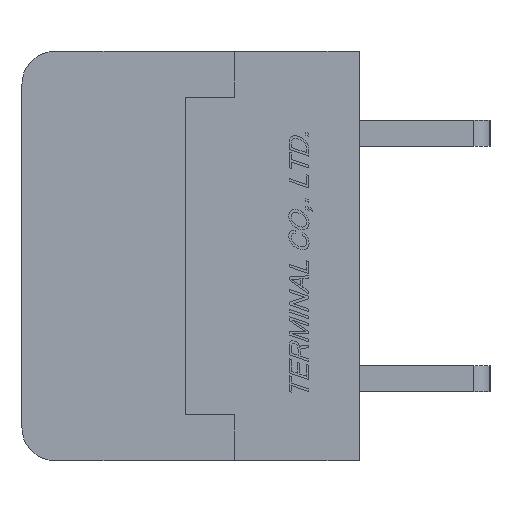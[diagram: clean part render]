
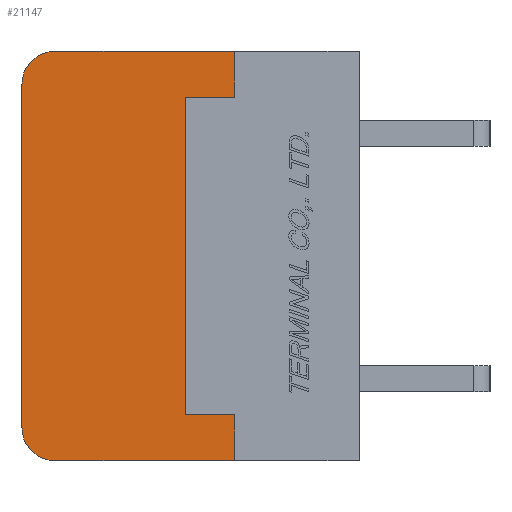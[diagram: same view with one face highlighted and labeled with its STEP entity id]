
A CAD part, left-side view. The second image highlights one B-rep face of the part: STEP entity #21147.
In plain terms, the highlighted planar face has unit normal (-1, 0, 0).
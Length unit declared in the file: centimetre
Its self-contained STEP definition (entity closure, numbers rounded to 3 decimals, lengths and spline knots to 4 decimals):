
#1131=CIRCLE('',#35636,0.1);
#1133=CIRCLE('',#35639,0.1);
#2916=VERTEX_POINT('',#32795);
#2917=VERTEX_POINT('',#32797);
#2919=VERTEX_POINT('',#32803);
#2921=VERTEX_POINT('',#32809);
#2922=VERTEX_POINT('',#32816);
#2923=VERTEX_POINT('',#32817);
#2924=VERTEX_POINT('',#32820);
#2925=VERTEX_POINT('',#32822);
#2926=VERTEX_POINT('',#32824);
#2927=VERTEX_POINT('',#32826);
#5172=VECTOR('',#25996,1.);
#5178=VECTOR('',#26016,1.);
#5179=VECTOR('',#26017,1.);
#5180=VECTOR('',#26018,1.);
#5181=VECTOR('',#26019,1.);
#5182=VECTOR('',#26020,1.);
#5183=VECTOR('',#26021,1.);
#5184=VECTOR('',#26022,1.);
#7496=LINE('',#32796,#5172);
#7502=LINE('',#32815,#5178);
#7503=LINE('',#32818,#5179);
#7504=LINE('',#32819,#5180);
#7505=LINE('',#32821,#5181);
#7506=LINE('',#32823,#5182);
#7507=LINE('',#32825,#5183);
#7508=LINE('',#32827,#5184);
#10596=EDGE_CURVE('',#2916,#2917,#7496,.T.);
#10600=EDGE_CURVE('',#2919,#2916,#1131,.T.);
#10602=EDGE_CURVE('',#2917,#2921,#1133,.T.);
#10606=EDGE_CURVE('',#2922,#2923,#7502,.T.);
#10607=EDGE_CURVE('',#2921,#2922,#7503,.T.);
#10608=EDGE_CURVE('',#2924,#2919,#7504,.T.);
#10609=EDGE_CURVE('',#2925,#2924,#7505,.T.);
#10610=EDGE_CURVE('',#2926,#2925,#7506,.T.);
#10611=EDGE_CURVE('',#2927,#2926,#7507,.T.);
#10612=EDGE_CURVE('',#2923,#2927,#7508,.T.);
#16370=ORIENTED_EDGE('',*,*,#10606,.F.);
#16371=ORIENTED_EDGE('',*,*,#10607,.F.);
#16372=ORIENTED_EDGE('',*,*,#10602,.F.);
#16373=ORIENTED_EDGE('',*,*,#10596,.F.);
#16374=ORIENTED_EDGE('',*,*,#10600,.F.);
#16375=ORIENTED_EDGE('',*,*,#10608,.F.);
#16376=ORIENTED_EDGE('',*,*,#10609,.F.);
#16377=ORIENTED_EDGE('',*,*,#10610,.F.);
#16378=ORIENTED_EDGE('',*,*,#10611,.F.);
#16379=ORIENTED_EDGE('',*,*,#10612,.F.);
#18611=EDGE_LOOP('',(#16370,#16371,#16372,#16373,#16374,#16375,#16376,#16377,
#16378,#16379));
#19917=FACE_BOUND('',#18611,.T.);
#21147=ADVANCED_FACE('',(#19917),#22035,.F.);
#22035=PLANE('',#35641);
#25996=DIRECTION('',(0.,0.,1.));
#26003=DIRECTION('',(1.,0.,0.));
#26004=DIRECTION('',(0.,0.,-0.1));
#26009=DIRECTION('',(1.,0.,0.));
#26010=DIRECTION('',(0.,0.,-0.1));
#26015=DIRECTION('',(1.,0.,0.));
#26016=DIRECTION('',(0.,0.,-1.));
#26017=DIRECTION('',(0.,-1.,0.));
#26018=DIRECTION('',(0.,1.,0.));
#26019=DIRECTION('',(0.,0.,-1.));
#26020=DIRECTION('',(0.,-1.,0.));
#26021=DIRECTION('',(0.,0.,-1.));
#26022=DIRECTION('',(0.,1.,0.));
#32795=CARTESIAN_POINT('',(-0.762,1.03,-0.525));
#32796=CARTESIAN_POINT('',(-0.762,1.03,-0.525));
#32797=CARTESIAN_POINT('',(-0.762,1.03,0.525));
#32803=CARTESIAN_POINT('',(-0.762,0.93,-0.625));
#32804=CARTESIAN_POINT('',(-0.762,0.93,-0.525));
#32808=CARTESIAN_POINT('',(-0.762,0.93,0.525));
#32809=CARTESIAN_POINT('',(-0.762,0.93,0.625));
#32814=CARTESIAN_POINT('',(-0.762,0.5047,0.));
#32815=CARTESIAN_POINT('',(-0.762,0.38,0.625));
#32816=CARTESIAN_POINT('',(-0.762,0.38,0.625));
#32817=CARTESIAN_POINT('',(-0.762,0.38,0.485));
#32818=CARTESIAN_POINT('',(-0.762,0.93,0.625));
#32819=CARTESIAN_POINT('',(-0.762,0.,-0.625));
#32820=CARTESIAN_POINT('',(-0.762,0.38,-0.625));
#32821=CARTESIAN_POINT('',(-0.762,0.38,-0.485));
#32822=CARTESIAN_POINT('',(-0.762,0.38,-0.485));
#32823=CARTESIAN_POINT('',(-0.762,0.53,-0.485));
#32824=CARTESIAN_POINT('',(-0.762,0.53,-0.485));
#32825=CARTESIAN_POINT('',(-0.762,0.53,0.485));
#32826=CARTESIAN_POINT('',(-0.762,0.53,0.485));
#32827=CARTESIAN_POINT('',(-0.762,0.38,0.485));
#35636=AXIS2_PLACEMENT_3D('',#32804,#26003,#26004);
#35639=AXIS2_PLACEMENT_3D('',#32808,#26009,#26010);
#35641=AXIS2_PLACEMENT_3D('',#32814,#26015,$);
